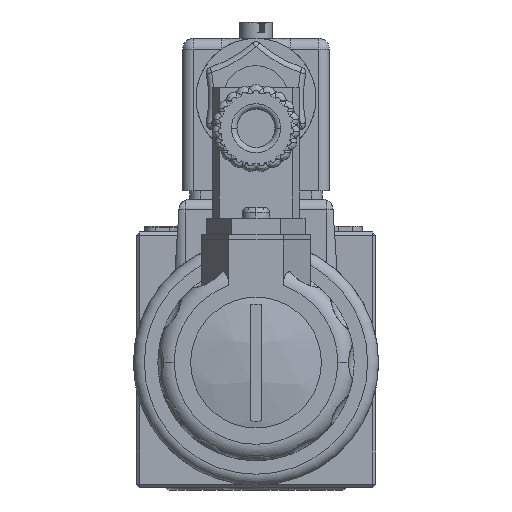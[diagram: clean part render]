
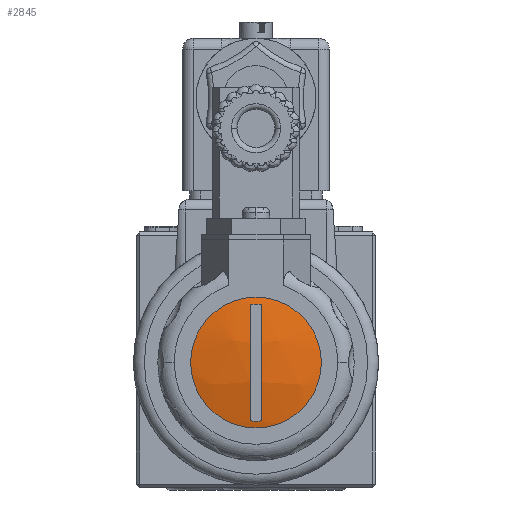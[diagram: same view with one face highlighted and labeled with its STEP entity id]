
A CAD part, left-side view. The second image highlights one B-rep face of the part: STEP entity #2845.
In plain terms, the highlighted spherical face has radius 48.75 mm.
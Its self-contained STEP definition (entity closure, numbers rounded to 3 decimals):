
#759=SPHERICAL_SURFACE('',#18092,48.75);
#2845=ADVANCED_FACE('',(#6431,#6432),#759,.T.);
#6431=FACE_BOUND('',#7299,.T.);
#6432=FACE_BOUND('',#7300,.T.);
#7299=EDGE_LOOP('',(#10167));
#7300=EDGE_LOOP('',(#10168,#10169,#10170,#10171));
#10167=ORIENTED_EDGE('',*,*,#15049,.F.);
#10168=ORIENTED_EDGE('',*,*,#15050,.T.);
#10169=ORIENTED_EDGE('',*,*,#15051,.F.);
#10170=ORIENTED_EDGE('',*,*,#15052,.T.);
#10171=ORIENTED_EDGE('',*,*,#15053,.F.);
#13151=VERTEX_POINT('',#67743);
#13152=VERTEX_POINT('',#67745);
#13153=VERTEX_POINT('',#67746);
#13154=VERTEX_POINT('',#67748);
#13155=VERTEX_POINT('',#67750);
#15049=EDGE_CURVE('',#13151,#13151,#16624,.T.);
#15050=EDGE_CURVE('',#13152,#13153,#16625,.T.);
#15051=EDGE_CURVE('',#13154,#13153,#16626,.T.);
#15052=EDGE_CURVE('',#13154,#13155,#16627,.T.);
#15053=EDGE_CURVE('',#13152,#13155,#16628,.T.);
#16624=CIRCLE('',#18087,12.);
#16625=CIRCLE('',#18088,48.74);
#16626=CIRCLE('',#18089,10.75);
#16627=CIRCLE('',#18090,48.74);
#16628=CIRCLE('',#18091,10.75);
#18087=AXIS2_PLACEMENT_3D('',#67742,#21491,#21492);
#18088=AXIS2_PLACEMENT_3D('',#67744,#21493,#21494);
#18089=AXIS2_PLACEMENT_3D('',#67747,#21495,#21496);
#18090=AXIS2_PLACEMENT_3D('',#67749,#21497,#21498);
#18091=AXIS2_PLACEMENT_3D('',#67751,#21499,#21500);
#18092=AXIS2_PLACEMENT_3D('',#67752,#21501,#21502);
#21491=DIRECTION('',(1.,0.,0.));
#21492=DIRECTION('',(0.,1.,0.));
#21493=DIRECTION('',(0.,-1.,0.));
#21494=DIRECTION('',(-1.,0.,0.));
#21495=DIRECTION('',(-1.,0.,0.));
#21496=DIRECTION('',(0.,1.,0.));
#21497=DIRECTION('',(0.,1.,0.));
#21498=DIRECTION('',(1.,0.,0.));
#21499=DIRECTION('',(-1.,0.,0.));
#21500=DIRECTION('',(0.,1.,0.));
#21501=DIRECTION('',(0.,0.,1.));
#21502=DIRECTION('',(0.,1.,0.));
#67742=CARTESIAN_POINT('',(-126.5,0.,0.));
#67743=CARTESIAN_POINT('',(-126.5,12.,0.));
#67744=CARTESIAN_POINT('',(-79.25,-1.,0.));
#67745=CARTESIAN_POINT('',(-126.8,-1.,10.703));
#67746=CARTESIAN_POINT('',(-126.8,-1.,-10.703));
#67747=CARTESIAN_POINT('',(-126.8,0.,0.));
#67748=CARTESIAN_POINT('',(-126.8,1.,-10.703));
#67749=CARTESIAN_POINT('',(-79.25,1.,0.));
#67750=CARTESIAN_POINT('',(-126.8,1.,10.703));
#67751=CARTESIAN_POINT('',(-126.8,0.,0.));
#67752=CARTESIAN_POINT('',(-79.25,0.,0.));
